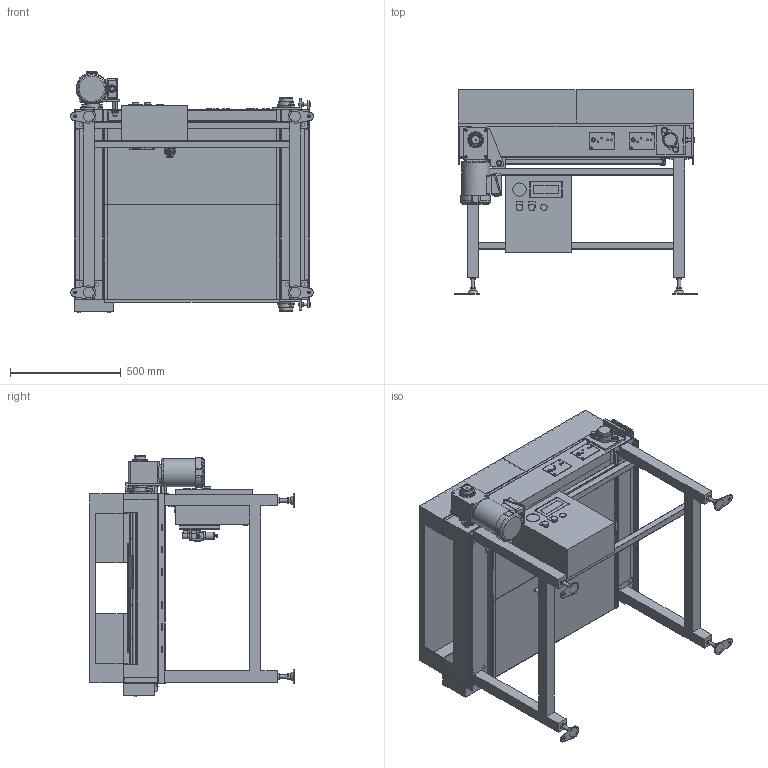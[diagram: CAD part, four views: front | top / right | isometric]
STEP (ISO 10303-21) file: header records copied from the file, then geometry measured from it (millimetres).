
FILE_DESCRIPTION( (''), '2;1');
FILE_NAME ('WEB-SLS-H-340-4-150-150-L-IVH-7.5.stp','2025-11-20T11:35:28',(''),(''),'spGate 20.6.2 (****-****-****-****)','','');
FILE_SCHEMA (('AUTOMOTIVE_DESIGN'));
Length unit declared in the file: millimetre
Products named in the file (92): WEB-SLS-H-340-4-150-150-L-IVH-7.5; TEMP_X_T-prt0; TEMP_X_T-prt1; TEMP_X_T-prt2; TEMP_X_T-prt3; TEMP_X_T-prt4; TEMP_X_T-prt5; TEMP_X_T-prt6; TEMP_X_T-prt7; TEMP_X_T-prt8; TEMP_X_T-prt9; TEMP_X_T-prt10; TEMP_X_T-prt11; TEMP_X_T-prt12; TEMP_X_T-prt13; TEMP_X_T-prt14; TEMP_X_T-prt15; TEMP_X_T-prt16; TEMP_X_T-prt17; TEMP_X_T-prt18; TEMP_X_T-prt19; TEMP_X_T-prt20; TEMP_X_T-prt21; TEMP_X_T-prt22; TEMP_X_T-prt23; TEMP_X_T-prt24; TEMP_X_T-prt25; TEMP_X_T-prt26; TEMP_X_T-prt27; TEMP_X_T-prt28; TEMP_X_T-prt29; TEMP_X_T-prt30; TEMP_X_T-prt31; TEMP_X_T-prt32; TEMP_X_T-prt33; TEMP_X_T-prt34; TEMP_X_T-prt35; TEMP_X_T-prt36; TEMP_X_T-prt37; TEMP_X_T-prt38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
Assembly tree (91 placements, depth 2):
  WEB-SLS-H-340-4-150-150-L-IVH-7.5
    TEMP_X_T-prt0
    TEMP_X_T-prt1
    TEMP_X_T-prt2
    TEMP_X_T-prt3
    TEMP_X_T-prt4
    TEMP_X_T-prt5
    TEMP_X_T-prt6
    TEMP_X_T-prt7
    TEMP_X_T-prt8
    TEMP_X_T-prt9
    TEMP_X_T-prt10
    TEMP_X_T-prt11
    TEMP_X_T-prt12
    TEMP_X_T-prt13
    TEMP_X_T-prt14
    TEMP_X_T-prt15
    TEMP_X_T-prt16
    TEMP_X_T-prt17
    TEMP_X_T-prt18
    TEMP_X_T-prt19
    TEMP_X_T-prt20
    TEMP_X_T-prt21
    TEMP_X_T-prt22
    TEMP_X_T-prt23
    TEMP_X_T-prt24
    TEMP_X_T-prt25
    TEMP_X_T-prt26
    TEMP_X_T-prt27
    TEMP_X_T-prt28
    TEMP_X_T-prt29
    TEMP_X_T-prt30
    TEMP_X_T-prt31
    TEMP_X_T-prt32
    TEMP_X_T-prt33
    TEMP_X_T-prt34
    TEMP_X_T-prt35
    TEMP_X_T-prt36
    TEMP_X_T-prt37
    TEMP_X_T-prt38
    TEMP_X_T-prt39
    TEMP_X_T-prt40
    TEMP_X_T-prt41
    TEMP_X_T-prt42
    TEMP_X_T-prt43
    TEMP_X_T-prt44
    TEMP_X_T-prt45
    TEMP_X_T-prt46
    TEMP_X_T-prt47
    TEMP_X_T-prt48
    TEMP_X_T-prt49
    TEMP_X_T-prt50
    TEMP_X_T-prt51
    TEMP_X_T-prt52
    TEMP_X_T-prt53
    TEMP_X_T-prt54
    TEMP_X_T-prt55
    TEMP_X_T-prt56
    TEMP_X_T-prt57
    TEMP_X_T-prt58
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Bounding box: 1094 x 920.6 x 1089.5 mm (x, y, z)
Volume: 70160278.1 mm3; surface area: 12433197.1 mm2
Topology: 91 solids, 91 shells, 2859 faces, 7804 edges, 4966 vertices
Faces by surface type: plane 2124, cylinder 562, bspline 169, sphere 4
Full cylindrical faces by diameter (mm): 2.459 x2, 3.2 x4, 4.386 x2, 6 x3, 6.5 x2, 6.8 x3, 7 x4, 7.9 x4, 8 x6, 8.376 x4, 8.5 x8, 9 x1, 9.7 x3, 9.9 x1, 10 x1, 10.5 x4, 11 x6, 11.8 x4, 12 x2, 12.3 x1, 13 x8, 13.8 x1, 14 x10, 15 x1, 15.4 x1, 16 x16, 18 x1, 19 x2, 20 x1, 21 x6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
Entity records: 156768 total; most frequent: CARTESIAN_POINT 20110, ORIENTED_EDGE 15596, DIRECTION 14675, COLOUR_RGB 10748, PRESENTATION_STYLE_ASSIGNMENT 10748, STYLED_ITEM 10748, EDGE_CURVE 7798, DRAUGHTING_PRE_DEFINED_CURVE_FONT 7798
